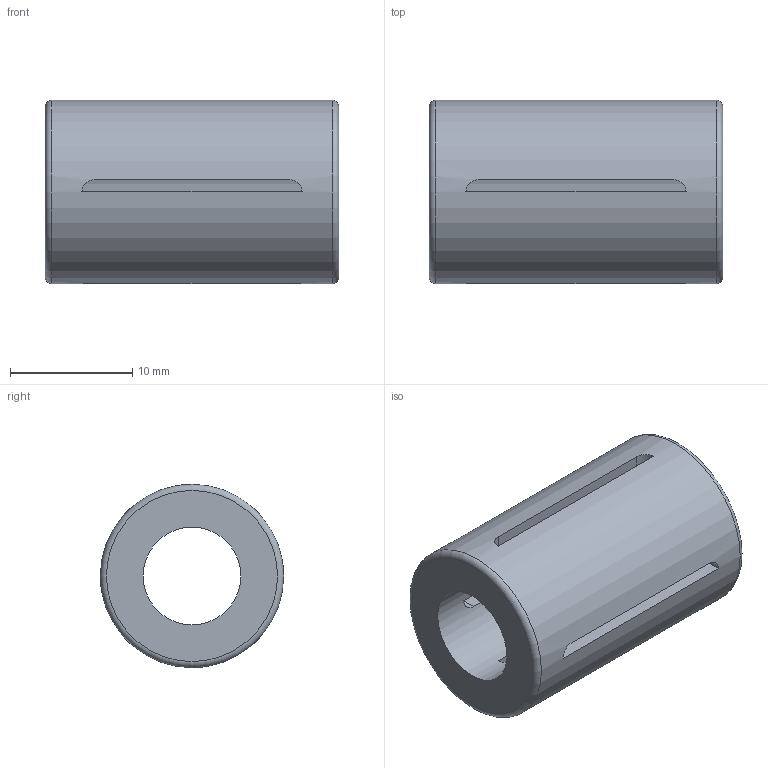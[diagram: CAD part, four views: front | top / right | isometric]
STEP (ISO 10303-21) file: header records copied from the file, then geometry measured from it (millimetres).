
FILE_DESCRIPTION(/* description */ ('Unknown'),/* implementation_level */ '2;1');
FILE_NAME(/* name */ 'KH0824',/* time_stamp */ '2025-02-04T09:43:32+08:00',/* author */ ('Unknown'),/* organization */ ('Unknown'),/* preprocessor_version */ 'ST-DEVELOPER v18.102',/* originating_system */ 'Solid Edge',/* authorisation */ 'Unknown');
FILE_SCHEMA (('AUTOMOTIVE_DESIGN {1 0 10303 214 3 1 1}'));
Length unit declared in the file: millimetre
Products named in the file (1): KH0824
Bounding box: 24 x 15 x 15 mm (x, y, z)
Volume: 2782.5 mm3; surface area: 2349.3 mm2
Topology: 1 solids, 1 shells, 22 faces, 60 edges, 38 vertices
Faces by surface type: cylinder 10, plane 10, torus 2
Full cylindrical faces by diameter (mm): 8 x1, 15 x1
Entity records: 734 total; most frequent: CARTESIAN_POINT 179, ORIENTED_EDGE 108, DIRECTION 90, EDGE_CURVE 54, VERTEX_POINT 38, EDGE_LOOP 36, FACE_BOUND 36, LINE 32
